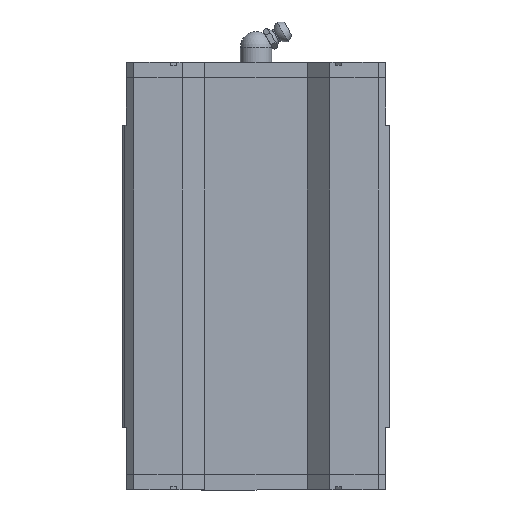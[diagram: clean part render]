
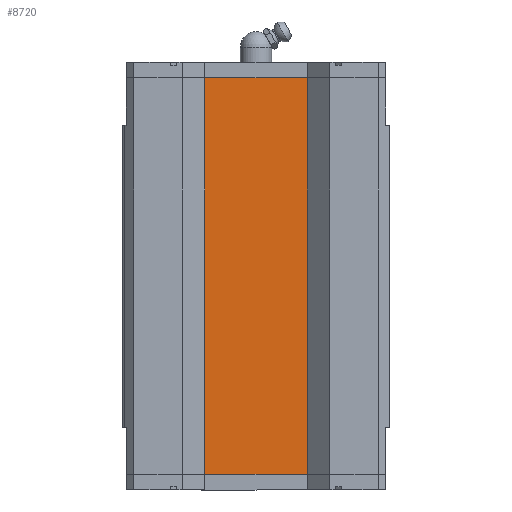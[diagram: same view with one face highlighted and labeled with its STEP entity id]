
A CAD part, front view. The second image highlights one B-rep face of the part: STEP entity #8720.
In plain terms, the highlighted planar face has unit normal (0, -1, 0).
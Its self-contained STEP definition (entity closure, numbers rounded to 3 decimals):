
#593 = EDGE_LOOP ( 'NONE', ( #3560, #3558, #3556, #3554 ) ) ;
#756 = CARTESIAN_POINT ( 'NONE',  ( 16.515, 28.5, -63.65 ) ) ;
#760 = PLANE ( 'NONE',  #1828 ) ;
#762 = DIRECTION ( 'NONE',  ( 0., 1., 0. ) ) ;
#763 = DIRECTION ( 'NONE',  ( 0., 0., 1. ) ) ;
#1828 = AXIS2_PLACEMENT_3D ( 'NONE', #756, #762, #763 ) ;
#3334 = DIRECTION ( 'NONE',  ( 0., 0., -1. ) ) ;
#3338 = CARTESIAN_POINT ( 'NONE',  ( 41.71, 28.5, 63.65 ) ) ;
#3339 = CARTESIAN_POINT ( 'NONE',  ( -16.515, 28.5, -63.65 ) ) ;
#3344 = DIRECTION ( 'NONE',  ( 1., 0., 0. ) ) ;
#3348 = CARTESIAN_POINT ( 'NONE',  ( 41.71, 28.5, -63.65 ) ) ;
#3350 = DIRECTION ( 'NONE',  ( -1., 0., 0. ) ) ;
#3370 = CARTESIAN_POINT ( 'NONE',  ( 16.515, 28.5, -63.65 ) ) ;
#3382 = DIRECTION ( 'NONE',  ( 0., 0., -1. ) ) ;
#3554 = ORIENTED_EDGE ( 'NONE', *, *, #6642, .T. ) ;
#3556 = ORIENTED_EDGE ( 'NONE', *, *, #6644, .T. ) ;
#3558 = ORIENTED_EDGE ( 'NONE', *, *, #6650, .F. ) ;
#3560 = ORIENTED_EDGE ( 'NONE', *, *, #6646, .T. ) ;
#4509 = VERTEX_POINT ( 'NONE', #8019 ) ;
#4520 = VERTEX_POINT ( 'NONE', #8030 ) ;
#4528 = VERTEX_POINT ( 'NONE', #8038 ) ;
#4533 = VERTEX_POINT ( 'NONE', #8043 ) ;
#5827 = LINE ( 'NONE', #3339, #5833 ) ;
#5832 = LINE ( 'NONE', #3338, #5837 ) ;
#5833 = VECTOR ( 'NONE', #3334, 1000. ) ;
#5837 = VECTOR ( 'NONE', #3350, 1000. ) ;
#5838 = LINE ( 'NONE', #3348, #5840 ) ;
#5840 = VECTOR ( 'NONE', #3344, 1000. ) ;
#5843 = LINE ( 'NONE', #3370, #5847 ) ;
#5847 = VECTOR ( 'NONE', #3382, 1000. ) ;
#6642 = EDGE_CURVE ( 'NONE', #4533, #4520, #5827, .T. ) ;
#6644 = EDGE_CURVE ( 'NONE', #4509, #4533, #5832, .T. ) ;
#6646 = EDGE_CURVE ( 'NONE', #4520, #4528, #5838, .T. ) ;
#6650 = EDGE_CURVE ( 'NONE', #4509, #4528, #5843, .T. ) ;
#8019 = CARTESIAN_POINT ( 'NONE',  ( 16.515, 28.5, 63.65 ) ) ;
#8030 = CARTESIAN_POINT ( 'NONE',  ( -16.515, 28.5, -63.65 ) ) ;
#8038 = CARTESIAN_POINT ( 'NONE',  ( 16.515, 28.5, -63.65 ) ) ;
#8043 = CARTESIAN_POINT ( 'NONE',  ( -16.515, 28.5, 63.65 ) ) ;
#8720 = ADVANCED_FACE ( 'NONE', ( #9388 ), #760, .F. ) ;
#9388 = FACE_OUTER_BOUND ( 'NONE', #593, .T. ) ;
